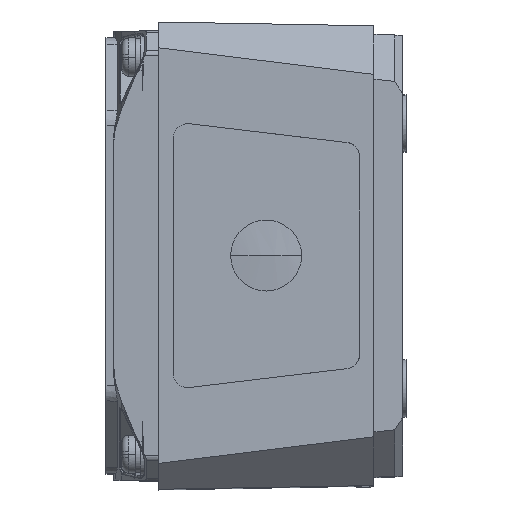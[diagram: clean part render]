
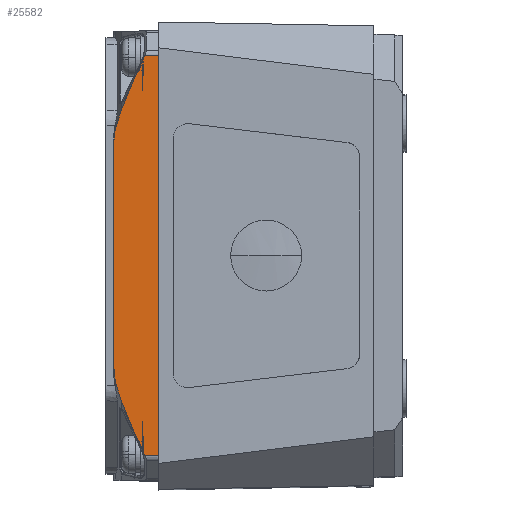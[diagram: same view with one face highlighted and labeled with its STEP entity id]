
A CAD part, top view. The second image highlights one B-rep face of the part: STEP entity #25582.
In plain terms, the highlighted planar face has unit normal (-0.018, 0, 1).
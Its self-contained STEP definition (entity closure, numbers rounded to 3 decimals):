
#5388=DIRECTION('',(-1.,0.,-0.017));
#5389=VECTOR('',#5388,1.954);
#5390=CARTESIAN_POINT('',(-17.2,27.886,31.397));
#5391=LINE('',#5390,#5389);
#5407=DIRECTION('',(0.,1.,0.));
#5408=VECTOR('',#5407,30.801);
#5409=CARTESIAN_POINT('',(-23.479,-15.401,
31.287));
#5410=LINE('',#5409,#5408);
#5411=CARTESIAN_POINT('',(-23.208,17.857,31.292));
#5412=CARTESIAN_POINT('',(-23.177,17.982,31.292));
#5413=CARTESIAN_POINT('',(-23.11,18.238,31.293));
#5414=CARTESIAN_POINT('',(-22.993,18.646,31.295));
#5415=CARTESIAN_POINT('',(-22.866,19.057,31.298));
#5416=CARTESIAN_POINT('',(-22.752,19.409,31.3));
#5417=CARTESIAN_POINT('',(-22.619,19.804,31.302));
#5418=CARTESIAN_POINT('',(-22.524,20.077,31.304));
#5419=CARTESIAN_POINT('',(-22.474,20.218,31.304));
#5421=DIRECTION('',(0.,-1.,0.));
#5422=VECTOR('',#5421,55.772);
#5423=CARTESIAN_POINT('',(-17.2,27.886,31.397));
#5424=LINE('',#5423,#5422);
#5444=DIRECTION('',(1.,0.,0.017));
#5445=VECTOR('',#5444,1.954);
#5446=CARTESIAN_POINT('',(-19.153,-27.886,
31.362));
#5447=LINE('',#5446,#5445);
#7644=CARTESIAN_POINT('',(-23.208,-17.857,
31.292));
#7645=CARTESIAN_POINT('',(-23.167,-18.021,
31.292));
#7646=CARTESIAN_POINT('',(-23.08,-18.347,
31.294));
#7647=CARTESIAN_POINT('',(-22.925,-18.871,
31.297));
#7648=CARTESIAN_POINT('',(-22.783,-19.316,31.299));
#7649=CARTESIAN_POINT('',(-22.633,-19.765,
31.302));
#7650=CARTESIAN_POINT('',(-22.528,-20.066,
31.304));
#7651=CARTESIAN_POINT('',(-22.474,-20.218,
31.304));
#7709=CARTESIAN_POINT('',(-23.479,-15.401,
31.287));
#7710=CARTESIAN_POINT('',(-23.479,-15.506,
31.287));
#7711=CARTESIAN_POINT('',(-23.478,-15.715,
31.287));
#7712=CARTESIAN_POINT('',(-23.473,-16.022,
31.287));
#7713=CARTESIAN_POINT('',(-23.46,-16.326,
31.287));
#7714=CARTESIAN_POINT('',(-23.438,-16.612,
31.288));
#7715=CARTESIAN_POINT('',(-23.399,-16.93,
31.288));
#7716=CARTESIAN_POINT('',(-23.345,-17.249,
31.289));
#7717=CARTESIAN_POINT('',(-23.28,-17.557,
31.29));
#7718=CARTESIAN_POINT('',(-23.233,-17.758,
31.291));
#7719=CARTESIAN_POINT('',(-23.208,-17.857,
31.292));
#7756=CARTESIAN_POINT('',(-23.208,17.857,31.292));
#7757=CARTESIAN_POINT('',(-23.233,17.756,31.291));
#7758=CARTESIAN_POINT('',(-23.281,17.553,31.29));
#7759=CARTESIAN_POINT('',(-23.345,17.247,31.289));
#7760=CARTESIAN_POINT('',(-23.398,16.937,31.288));
#7761=CARTESIAN_POINT('',(-23.436,16.628,31.288));
#7762=CARTESIAN_POINT('',(-23.461,16.312,31.287));
#7763=CARTESIAN_POINT('',(-23.473,16.011,31.287));
#7764=CARTESIAN_POINT('',(-23.479,15.707,31.287));
#7765=CARTESIAN_POINT('',(-23.479,15.503,31.287));
#7766=CARTESIAN_POINT('',(-23.479,15.401,31.287));
#9726=CARTESIAN_POINT('',(-19.153,27.886,31.362));
#9727=CARTESIAN_POINT('',(-19.32,27.544,31.36));
#9728=CARTESIAN_POINT('',(-19.65,26.857,31.354));
#9729=CARTESIAN_POINT('',(-20.138,25.82,31.345));
#9730=CARTESIAN_POINT('',(-20.458,25.124,31.34));
#9731=CARTESIAN_POINT('',(-20.617,24.775,31.337));
#9769=CARTESIAN_POINT('',(-20.617,24.775,31.337));
#9770=CARTESIAN_POINT('',(-20.731,24.526,31.335));
#9771=CARTESIAN_POINT('',(-20.965,24.005,31.331));
#9772=CARTESIAN_POINT('',(-21.338,23.143,31.324));
#9773=CARTESIAN_POINT('',(-21.717,22.225,31.318));
#9774=CARTESIAN_POINT('',(-22.088,21.279,31.311));
#9775=CARTESIAN_POINT('',(-22.345,20.58,31.307));
#9776=CARTESIAN_POINT('',(-22.474,20.218,31.304));
#11380=CARTESIAN_POINT('',(-22.474,-20.218,
31.304));
#11381=CARTESIAN_POINT('',(-22.345,-20.582,
31.307));
#11382=CARTESIAN_POINT('',(-22.086,-21.284,
31.311));
#11383=CARTESIAN_POINT('',(-21.714,-22.233,
31.318));
#11384=CARTESIAN_POINT('',(-21.335,-23.151,
31.324));
#11385=CARTESIAN_POINT('',(-20.963,-24.01,
31.331));
#11386=CARTESIAN_POINT('',(-20.73,-24.528,
31.335));
#11387=CARTESIAN_POINT('',(-20.617,-24.775,
31.337));
#11440=CARTESIAN_POINT('',(-20.617,-24.775,
31.337));
#11441=CARTESIAN_POINT('',(-20.458,-25.124,
31.34));
#11442=CARTESIAN_POINT('',(-20.138,-25.82,
31.345));
#11443=CARTESIAN_POINT('',(-19.65,-26.857,
31.354));
#11444=CARTESIAN_POINT('',(-19.32,-27.544,
31.36));
#11445=CARTESIAN_POINT('',(-19.153,-27.886,
31.362));
#16734=CARTESIAN_POINT('',(-17.2,-27.886,
31.397));
#16735=VERTEX_POINT('',#16734);
#16736=CARTESIAN_POINT('',(-17.2,27.886,
31.397));
#16737=VERTEX_POINT('',#16736);
#17256=CARTESIAN_POINT('',(-19.153,27.886,
31.362));
#17257=VERTEX_POINT('',#17256);
#17258=CARTESIAN_POINT('',(-19.153,-27.886,
31.362));
#17259=VERTEX_POINT('',#17258);
#17260=VERTEX_POINT('',#11440);
#17261=VERTEX_POINT('',#11380);
#17262=VERTEX_POINT('',#7644);
#17263=VERTEX_POINT('',#7709);
#17264=CARTESIAN_POINT('',(-23.479,15.401,
31.287));
#17265=VERTEX_POINT('',#17264);
#17266=VERTEX_POINT('',#7756);
#17267=VERTEX_POINT('',#5419);
#17268=VERTEX_POINT('',#9769);
#25553=CARTESIAN_POINT('',(-17.,-27.886,31.4));
#25554=DIRECTION('',(-0.017,0.,1.));
#25555=DIRECTION('',(1.,0.,0.017));
#25556=AXIS2_PLACEMENT_3D('',#25553,#25554,#25555);
#25557=PLANE('',#25556);
#25559=ORIENTED_EDGE('',*,*,#25558,.F.);
#25561=ORIENTED_EDGE('',*,*,#25560,.F.);
#25563=ORIENTED_EDGE('',*,*,#25562,.F.);
#25565=ORIENTED_EDGE('',*,*,#25564,.F.);
#25567=ORIENTED_EDGE('',*,*,#25566,.F.);
#25569=ORIENTED_EDGE('',*,*,#25568,.T.);
#25571=ORIENTED_EDGE('',*,*,#25570,.F.);
#25573=ORIENTED_EDGE('',*,*,#25572,.T.);
#25575=ORIENTED_EDGE('',*,*,#25574,.F.);
#25577=ORIENTED_EDGE('',*,*,#25576,.F.);
#25578=ORIENTED_EDGE('',*,*,#25544,.F.);
#25579=ORIENTED_EDGE('',*,*,#19550,.T.);
#25580=EDGE_LOOP('',(#25559,#25561,#25563,#25565,#25567,#25569,#25571,#25573,
#25575,#25577,#25578,#25579));
#25581=FACE_OUTER_BOUND('',#25580,.F.);
#25582=ADVANCED_FACE('',(#25581),#25557,.T.);
#5420=B_SPLINE_CURVE_WITH_KNOTS('',3,(#5411,#5412,#5413,#5414,#5415,#5416,#5417,
#5418,#5419),.UNSPECIFIED.,.F.,.F.,(4,1,1,1,1,1,4),(0.,0.167,
0.333,0.5,0.667,0.833,1.),
.UNSPECIFIED.);
#7652=B_SPLINE_CURVE_WITH_KNOTS('',3,(#7644,#7645,#7646,#7647,#7648,#7649,#7650,
#7651),.UNSPECIFIED.,.F.,.F.,(4,1,1,1,1,4),(0.,0.2,0.4,0.6,0.8,1.),
.UNSPECIFIED.);
#7720=B_SPLINE_CURVE_WITH_KNOTS('',3,(#7709,#7710,#7711,#7712,#7713,#7714,#7715,
#7716,#7717,#7718,#7719),.UNSPECIFIED.,.F.,.F.,(4,1,1,1,1,1,1,1,4),(0.,
0.125,0.25,0.375,0.5,0.625,0.75,0.875,1.),.UNSPECIFIED.);
#7767=B_SPLINE_CURVE_WITH_KNOTS('',3,(#7756,#7757,#7758,#7759,#7760,#7761,#7762,
#7763,#7764,#7765,#7766),.UNSPECIFIED.,.F.,.F.,(4,1,1,1,1,1,1,1,4),(0.,
0.125,0.25,0.375,0.5,0.625,0.75,0.875,1.),.UNSPECIFIED.);
#9732=B_SPLINE_CURVE_WITH_KNOTS('',3,(#9726,#9727,#9728,#9729,#9730,#9731),
.UNSPECIFIED.,.F.,.F.,(4,1,1,4),(0.,0.333,0.667,1.),
.UNSPECIFIED.);
#9777=B_SPLINE_CURVE_WITH_KNOTS('',3,(#9769,#9770,#9771,#9772,#9773,#9774,#9775,
#9776),.UNSPECIFIED.,.F.,.F.,(4,1,1,1,1,4),(0.,0.2,0.4,0.6,0.8,1.),
.UNSPECIFIED.);
#11388=B_SPLINE_CURVE_WITH_KNOTS('',3,(#11380,#11381,#11382,#11383,#11384,
#11385,#11386,#11387),.UNSPECIFIED.,.F.,.F.,(4,1,1,1,1,4),(0.,0.2,0.4,
0.6,0.8,1.),.UNSPECIFIED.);
#11446=B_SPLINE_CURVE_WITH_KNOTS('',3,(#11440,#11441,#11442,#11443,#11444,
#11445),.UNSPECIFIED.,.F.,.F.,(4,1,1,4),(0.,0.333,
0.667,1.),.UNSPECIFIED.);
#19550=EDGE_CURVE('',#16737,#16735,#5424,.T.);
#25544=EDGE_CURVE('',#16737,#17257,#5391,.T.);
#25558=EDGE_CURVE('',#17259,#16735,#5447,.T.);
#25560=EDGE_CURVE('',#17260,#17259,#11446,.T.);
#25562=EDGE_CURVE('',#17261,#17260,#11388,.T.);
#25564=EDGE_CURVE('',#17262,#17261,#7652,.T.);
#25566=EDGE_CURVE('',#17263,#17262,#7720,.T.);
#25568=EDGE_CURVE('',#17263,#17265,#5410,.T.);
#25570=EDGE_CURVE('',#17266,#17265,#7767,.T.);
#25572=EDGE_CURVE('',#17266,#17267,#5420,.T.);
#25574=EDGE_CURVE('',#17268,#17267,#9777,.T.);
#25576=EDGE_CURVE('',#17257,#17268,#9732,.T.);
